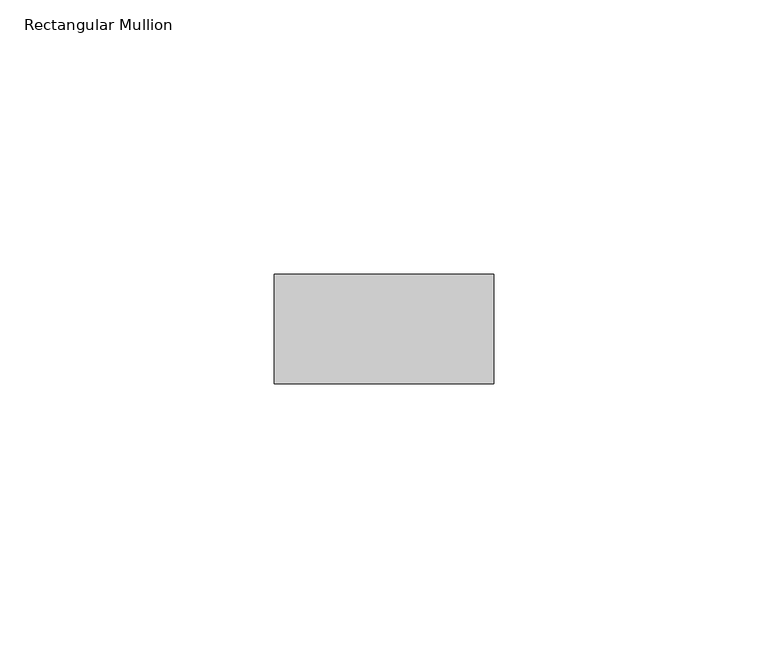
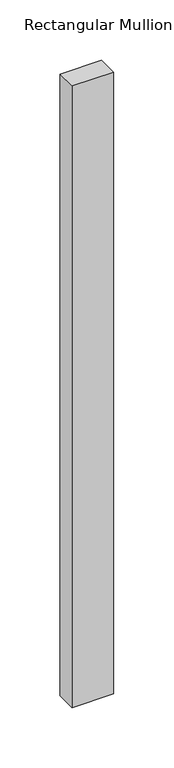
"""IFC4 building model written with IfcOpenShell, lengths in millimetres: member geometry, Rectangular Mullion : RIPA 4x2 cm."""

from ifc_helpers import new_model, si_unit, frame, origin, place, context, project, spatial, polyline, outline, extrude, source, transform, mapped, element, save


def rectangular_mullion_c4d6ff5f(model_context):
    return source(origin(), model_context, "Body", "SweptSolid", [
        extrude(outline(polyline([(20.0, 0.0), (20.0, -20.0), (-20.0, -20.0), (-20.0, 0.0), (20.0, 0.0)])), frame((0.0, 0.0, -630.4754322), z_axis=(0.0, 0.0, 1.0), x_axis=(1.0, 0.0, 0.0)), (0.0, 0.0, 1.0), 630.4754322),
    ])


if __name__ == "__main__":
    model = new_model("IFC4")
    model_context = context("Model", 3, world=origin())
    ifc_project = project(units=[si_unit("LENGTHUNIT", "METRE", prefix="MILLI")], contexts=[model_context])
    site = spatial("IfcSite", under=ifc_project)
    building = spatial("IfcBuilding", under=site)
    placement = place(None, origin())
    rectangular_mullion_shape = rectangular_mullion_c4d6ff5f(model_context)
    element("IfcMember", 1, ObjectType="Rectangular Mullion : RIPA 4x2 cm", at=placement, inside=building, context=model_context, shape_type="MappedRepresentation", body=[
        mapped(rectangular_mullion_shape, transform((0.0, 0.0, 0.0), x_axis=(1.0, 0.0, 0.0), y_axis=(0.0, 1.0, 0.0), z_axis=(0.0, 0.0, 1.0))),
    ])
    save(model, "model.ifc")
